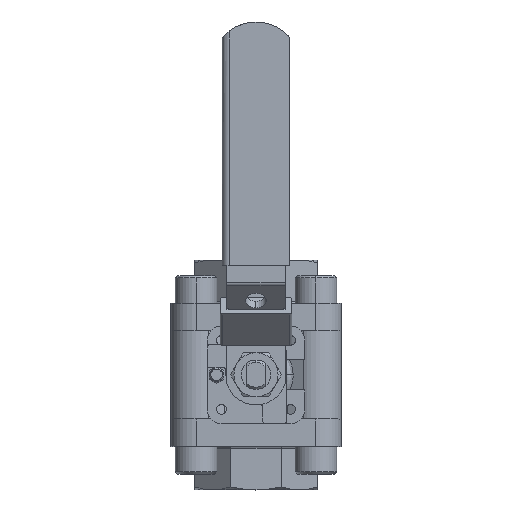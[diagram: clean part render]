
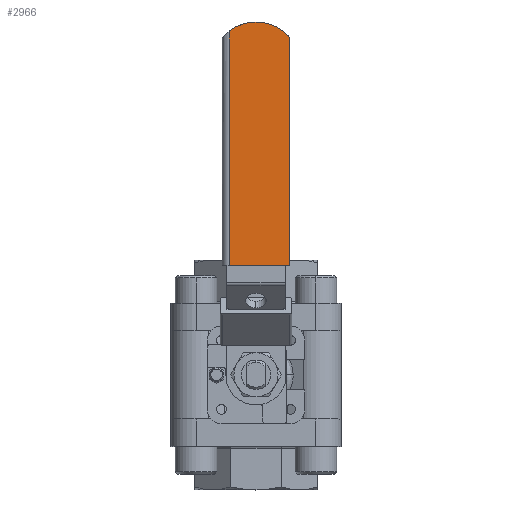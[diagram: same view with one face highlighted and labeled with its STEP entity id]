
A CAD part, top view. The second image highlights one B-rep face of the part: STEP entity #2966.
In plain terms, the highlighted planar face has unit normal (0, 0, 1).
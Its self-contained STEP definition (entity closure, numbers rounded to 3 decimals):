
#1945 = PLANE('',#1946);
#1946 = AXIS2_PLACEMENT_3D('',#1947,#1948,#1949);
#1947 = CARTESIAN_POINT('',(-11.788,100.583,135.7));
#1948 = DIRECTION('',(0.,1.,0.));
#1949 = DIRECTION('',(-1.,0.,0.));
#2158 = CYLINDRICAL_SURFACE('',#2159,19.);
#2159 = AXIS2_PLACEMENT_3D('',#2160,#2161,#2162);
#2160 = CARTESIAN_POINT('',(2.712,186.583,135.7));
#2161 = DIRECTION('',(0.,0.,-1.));
#2162 = DIRECTION('',(1.,0.,0.));
#2440 = CYLINDRICAL_SURFACE('',#2441,3.);
#2441 = AXIS2_PLACEMENT_3D('',#2442,#2443,#2444);
#2442 = CARTESIAN_POINT('',(-8.788,186.583,132.7));
#2443 = DIRECTION('',(0.,1.,0.));
#2444 = DIRECTION('',(-1.,0.,0.));
#2616 = PLANE('',#2617);
#2617 = AXIS2_PLACEMENT_3D('',#2618,#2619,#2620);
#2618 = CARTESIAN_POINT('',(17.212,100.583,135.7));
#2619 = DIRECTION('',(-1.,0.,0.));
#2620 = DIRECTION('',(0.,-1.,0.));
#2655 = VERTEX_POINT('',#2656);
#2656 = CARTESIAN_POINT('',(17.212,198.861,135.7));
#2682 = VERTEX_POINT('',#2683);
#2683 = CARTESIAN_POINT('',(-8.788,201.708,135.7));
#2805 = EDGE_CURVE('',#2655,#2682,#2806,.T.);
#2806 = SURFACE_CURVE('',#2807,(#2812,#2819),.PCURVE_S1.);
#2807 = CIRCLE('',#2808,19.);
#2808 = AXIS2_PLACEMENT_3D('',#2809,#2810,#2811);
#2809 = CARTESIAN_POINT('',(2.712,186.583,135.7));
#2810 = DIRECTION('',(0.,0.,1.));
#2811 = DIRECTION('',(1.,0.,0.));
#2812 = PCURVE('',#2158,#2813);
#2813 = DEFINITIONAL_REPRESENTATION('',(#2814),#2818);
#2814 = LINE('',#2815,#2816);
#2815 = CARTESIAN_POINT('',(6.283,0.));
#2816 = VECTOR('',#2817,1.);
#2817 = DIRECTION('',(-1.,0.));
#2818 = ( GEOMETRIC_REPRESENTATION_CONTEXT(2) 
PARAMETRIC_REPRESENTATION_CONTEXT() REPRESENTATION_CONTEXT('2D SPACE',''
  ) );
#2819 = PCURVE('',#2820,#2825);
#2820 = PLANE('',#2821);
#2821 = AXIS2_PLACEMENT_3D('',#2822,#2823,#2824);
#2822 = CARTESIAN_POINT('',(2.712,186.583,135.7));
#2823 = DIRECTION('',(0.,0.,1.));
#2824 = DIRECTION('',(-1.,0.,0.));
#2825 = DEFINITIONAL_REPRESENTATION('',(#2826),#2830);
#2826 = CIRCLE('',#2827,19.);
#2827 = AXIS2_PLACEMENT_2D('',#2828,#2829);
#2828 = CARTESIAN_POINT('',(0.,0.));
#2829 = DIRECTION('',(-1.,0.));
#2830 = ( GEOMETRIC_REPRESENTATION_CONTEXT(2) 
PARAMETRIC_REPRESENTATION_CONTEXT() REPRESENTATION_CONTEXT('2D SPACE',''
  ) );
#2836 = VERTEX_POINT('',#2837);
#2837 = CARTESIAN_POINT('',(-8.788,100.583,135.7));
#2859 = EDGE_CURVE('',#2682,#2836,#2860,.T.);
#2860 = SURFACE_CURVE('',#2861,(#2865,#2872),.PCURVE_S1.);
#2861 = LINE('',#2862,#2863);
#2862 = CARTESIAN_POINT('',(-8.788,186.583,135.7));
#2863 = VECTOR('',#2864,1.);
#2864 = DIRECTION('',(0.,-1.,0.));
#2865 = PCURVE('',#2440,#2866);
#2866 = DEFINITIONAL_REPRESENTATION('',(#2867),#2871);
#2867 = LINE('',#2868,#2869);
#2868 = CARTESIAN_POINT('',(1.571,0.));
#2869 = VECTOR('',#2870,1.);
#2870 = DIRECTION('',(0.,-1.));
#2871 = ( GEOMETRIC_REPRESENTATION_CONTEXT(2) 
PARAMETRIC_REPRESENTATION_CONTEXT() REPRESENTATION_CONTEXT('2D SPACE',''
  ) );
#2872 = PCURVE('',#2820,#2873);
#2873 = DEFINITIONAL_REPRESENTATION('',(#2874),#2878);
#2874 = LINE('',#2875,#2876);
#2875 = CARTESIAN_POINT('',(11.5,0.));
#2876 = VECTOR('',#2877,1.);
#2877 = DIRECTION('',(0.,1.));
#2878 = ( GEOMETRIC_REPRESENTATION_CONTEXT(2) 
PARAMETRIC_REPRESENTATION_CONTEXT() REPRESENTATION_CONTEXT('2D SPACE',''
  ) );
#2889 = VERTEX_POINT('',#2890);
#2890 = CARTESIAN_POINT('',(17.212,100.583,135.7));
#2911 = EDGE_CURVE('',#2836,#2889,#2912,.T.);
#2912 = SURFACE_CURVE('',#2913,(#2917,#2924),.PCURVE_S1.);
#2913 = LINE('',#2914,#2915);
#2914 = CARTESIAN_POINT('',(2.712,100.583,135.7));
#2915 = VECTOR('',#2916,1.);
#2916 = DIRECTION('',(1.,0.,0.));
#2917 = PCURVE('',#1945,#2918);
#2918 = DEFINITIONAL_REPRESENTATION('',(#2919),#2923);
#2919 = LINE('',#2920,#2921);
#2920 = CARTESIAN_POINT('',(-14.5,0.));
#2921 = VECTOR('',#2922,1.);
#2922 = DIRECTION('',(-1.,0.));
#2923 = ( GEOMETRIC_REPRESENTATION_CONTEXT(2) 
PARAMETRIC_REPRESENTATION_CONTEXT() REPRESENTATION_CONTEXT('2D SPACE',''
  ) );
#2924 = PCURVE('',#2820,#2925);
#2925 = DEFINITIONAL_REPRESENTATION('',(#2926),#2930);
#2926 = LINE('',#2927,#2928);
#2927 = CARTESIAN_POINT('',(0.,86.));
#2928 = VECTOR('',#2929,1.);
#2929 = DIRECTION('',(-1.,0.));
#2930 = ( GEOMETRIC_REPRESENTATION_CONTEXT(2) 
PARAMETRIC_REPRESENTATION_CONTEXT() REPRESENTATION_CONTEXT('2D SPACE',''
  ) );
#2945 = EDGE_CURVE('',#2889,#2655,#2946,.T.);
#2946 = SURFACE_CURVE('',#2947,(#2951,#2958),.PCURVE_S1.);
#2947 = LINE('',#2948,#2949);
#2948 = CARTESIAN_POINT('',(17.212,186.583,135.7));
#2949 = VECTOR('',#2950,1.);
#2950 = DIRECTION('',(0.,1.,0.));
#2951 = PCURVE('',#2616,#2952);
#2952 = DEFINITIONAL_REPRESENTATION('',(#2953),#2957);
#2953 = LINE('',#2954,#2955);
#2954 = CARTESIAN_POINT('',(-86.,0.));
#2955 = VECTOR('',#2956,1.);
#2956 = DIRECTION('',(-1.,0.));
#2957 = ( GEOMETRIC_REPRESENTATION_CONTEXT(2) 
PARAMETRIC_REPRESENTATION_CONTEXT() REPRESENTATION_CONTEXT('2D SPACE',''
  ) );
#2958 = PCURVE('',#2820,#2959);
#2959 = DEFINITIONAL_REPRESENTATION('',(#2960),#2964);
#2960 = LINE('',#2961,#2962);
#2961 = CARTESIAN_POINT('',(-14.5,0.));
#2962 = VECTOR('',#2963,1.);
#2963 = DIRECTION('',(0.,-1.));
#2964 = ( GEOMETRIC_REPRESENTATION_CONTEXT(2) 
PARAMETRIC_REPRESENTATION_CONTEXT() REPRESENTATION_CONTEXT('2D SPACE',''
  ) );
#2966 = ADVANCED_FACE('',(#2967),#2820,.T.);
#2967 = FACE_BOUND('',#2968,.T.);
#2968 = EDGE_LOOP('',(#2969,#2970,#2971,#2972));
#2969 = ORIENTED_EDGE('',*,*,#2911,.T.);
#2970 = ORIENTED_EDGE('',*,*,#2945,.T.);
#2971 = ORIENTED_EDGE('',*,*,#2805,.T.);
#2972 = ORIENTED_EDGE('',*,*,#2859,.T.);
